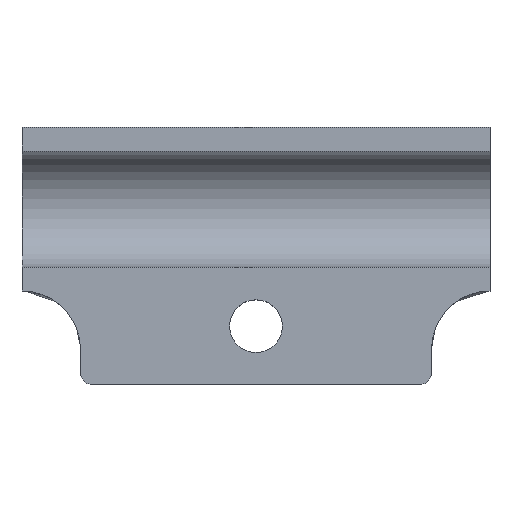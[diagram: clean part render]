
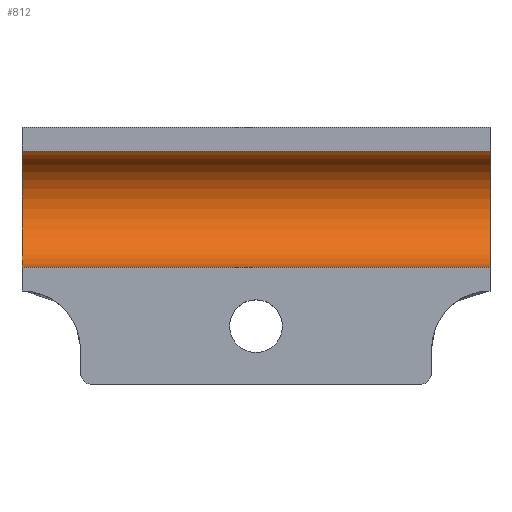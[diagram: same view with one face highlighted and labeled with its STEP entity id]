
A CAD part, top view. The second image highlights one B-rep face of the part: STEP entity #812.
In plain terms, the highlighted cylindrical face has radius 4.95 mm (diameter 9.9 mm), a partial arc.
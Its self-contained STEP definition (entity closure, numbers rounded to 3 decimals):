
#286=CARTESIAN_POINT('',(20.0,2.05,7.));
#287=VERTEX_POINT('',#286);
#294=CARTESIAN_POINT('',(-20.0,2.05,7.));
#295=VERTEX_POINT('',#294);
#296=CARTESIAN_POINT('',(20.0,2.05,7.));
#297=DIRECTION('',(-1.0,0.0,0.0));
#298=VECTOR('',#297,40.0);
#299=LINE('',#296,#298);
#300=EDGE_CURVE('',#287,#295,#299,.T.);
#641=CARTESIAN_POINT('',(-20.0,11.95,7.));
#642=VERTEX_POINT('',#641);
#643=CARTESIAN_POINT('',(-20.0,7.,7.));
#644=DIRECTION('',(1.0,0.0,0.0));
#645=DIRECTION('',(0.0,0.0,1.0));
#646=AXIS2_PLACEMENT_3D('',#643,#644,#645);
#647=CIRCLE('',#646,4.95);
#648=EDGE_CURVE('',#295,#642,#647,.T.);
#774=CARTESIAN_POINT('',(20.0,11.95,7.));
#775=VERTEX_POINT('',#774);
#782=CARTESIAN_POINT('',(20.0,7.,7.));
#783=DIRECTION('',(-1.0,0.0,0.0));
#784=DIRECTION('',(0.0,0.0,1.0));
#785=AXIS2_PLACEMENT_3D('',#782,#783,#784);
#786=CIRCLE('',#785,4.95);
#787=EDGE_CURVE('',#775,#287,#786,.T.);
#796=CARTESIAN_POINT('',(20.0,7.,7.));
#797=DIRECTION('',(-1.0,0.0,0.0));
#798=DIRECTION('',(0.0,0.0,1.0));
#799=AXIS2_PLACEMENT_3D('',#796,#797,#798);
#800=CYLINDRICAL_SURFACE('',#799,4.95);
#801=CARTESIAN_POINT('',(-20.0,11.95,7.));
#802=DIRECTION('',(1.0,0.0,0.0));
#803=VECTOR('',#802,40.0);
#804=LINE('',#801,#803);
#805=EDGE_CURVE('',#642,#775,#804,.T.);
#806=ORIENTED_EDGE('',*,*,#805,.F.);
#807=ORIENTED_EDGE('',*,*,#648,.F.);
#808=ORIENTED_EDGE('',*,*,#300,.F.);
#809=ORIENTED_EDGE('',*,*,#787,.F.);
#810=EDGE_LOOP('',(#806,#807,#808,#809));
#811=FACE_OUTER_BOUND('',#810,.T.);
#812=ADVANCED_FACE('',(#811),#800,.F.);
